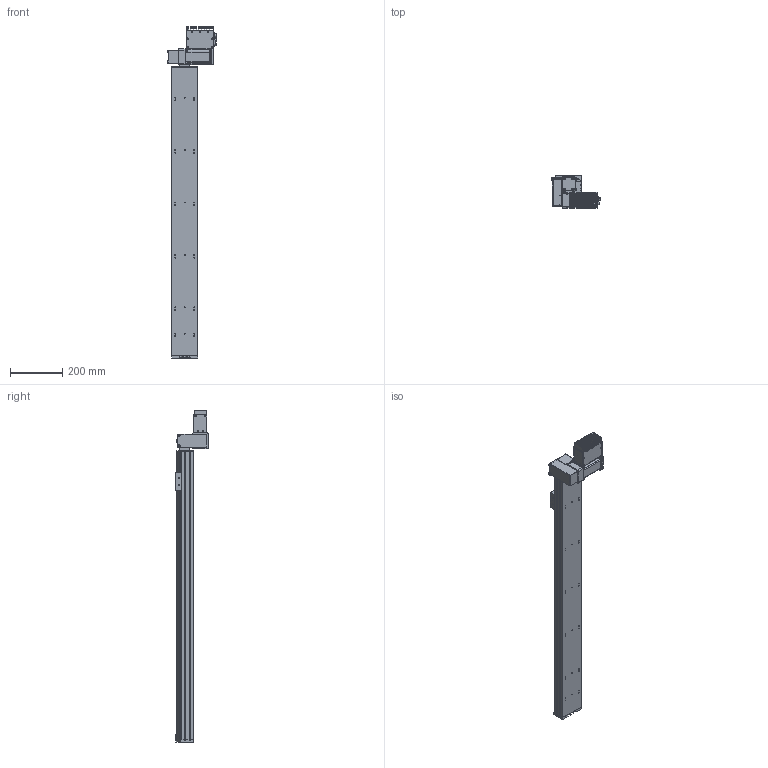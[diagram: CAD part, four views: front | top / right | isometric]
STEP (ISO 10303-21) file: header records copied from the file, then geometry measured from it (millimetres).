
FILE_DESCRIPTION (( 'STEP AP203' ), '1' );
FILE_NAME ('S10 TBN RH S1100.STEP', '2012-06-14T08:05:06', ( 'Conseil Régional Haute-Normandie' ), ( 'Conseil Régional Haute-Normandie' ), 'SwSTEP 2.0', 'SolidWorks 2010', '' );
FILE_SCHEMA (( 'CONFIG_CONTROL_DESIGN' ));
Length unit declared in the file: millimetre
Products named in the file (29): Copie de plaque de bout s10_Default^S10 TBN RH S1100; Vis M5 L16-2_Default_1; cache t皻e axe_Default; vis M5 L5_Default; Couvercle_3; BU45 Carte d''axe A11_5; Moteur 60BLDC90A_3; Colonnette ronde_3; Radiateur profil_X2_00E9_X0_ 100x25_3; S10 TBN RH S1100; axe 1100; embout; palette tbn; cache t皻e_Default; Plaque racord_Default; renvoi LH_Default; Cvis M5 L30_Default; Assem1_7; T_X2_00F4_X0_le contre le moteur_5; BU41 Carte Alimentation P05_3; Colonnette_3; T_X2_00F4_X0_le fond_3; Connecteur rond D10 3cts_5; Connecteur rond D12 4cts_5; Sub D 9cts 90_X2_00B_X0__3; T_X2_00F4_X0_le Arri_X2_00E8_X0_re_5; T_X2_00F4_X0_le lat_X2_00E9_X0_rale_5; Vis TF 3 torkx_1_1; vis M5 L12_Default
Assembly tree (66 placements, depth 3):
  S10 TBN RH S1100
    Vis M5 L16-2_Default_1  x4
    vis M5 L5_Default  x4
    Assem1_7
      Sub D 9cts 90_X2_00B_X0__3
      Vis TF 3 torkx_1_1  x21
      Moteur 60BLDC90A_3
      T_X2_00F4_X0_le Arri_X2_00E8_X0_re_5
      T_X2_00F4_X0_le lat_X2_00E9_X0_rale_5  x2
      Colonnette_3  x2
      BU45 Carte d''axe A11_5
      T_X2_00F4_X0_le fond_3
      Colonnette ronde_3
      Connecteur rond D10 3cts_5  x2
      Connecteur rond D12 4cts_5
      BU41 Carte Alimentation P05_3
      Couvercle_3
      T_X2_00F4_X0_le contre le moteur_5
      Radiateur profil_X2_00E9_X0_ 100x25_3
    Plaque racord_Default
    vis M5 L12_Default  x8
    cache t皻e_Default  x2
    renvoi LH_Default
    Cvis M5 L30_Default  x2
    axe 1100
    Copie de plaque de bout s10_Default^S10 TBN RH S1100
    embout
    palette tbn
    cache t皻e axe_Default
Bounding box: 189.8 x 124.75 x 1266.5 mm (x, y, z)
Volume: 6555282.4 mm3; surface area: 849363.3 mm2
Topology: 65 solids, 65 shells, 2369 faces, 5843 edges, 3762 vertices
Faces by surface type: plane 1154, cylinder 982, cone 182, bspline 48, torus 3
Entity records: 47108 total; most frequent: CARTESIAN_POINT 8500, DIRECTION 7558, ORIENTED_EDGE 6882, EDGE_CURVE 3441, AXIS2_PLACEMENT_3D 2799, VERTEX_POINT 2246, VECTOR 1960, LINE 1960
